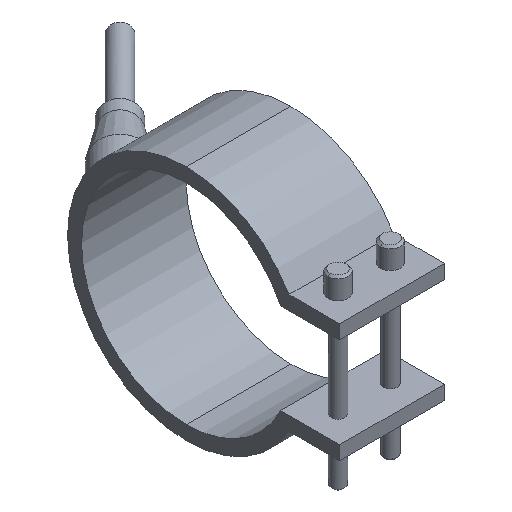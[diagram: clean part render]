
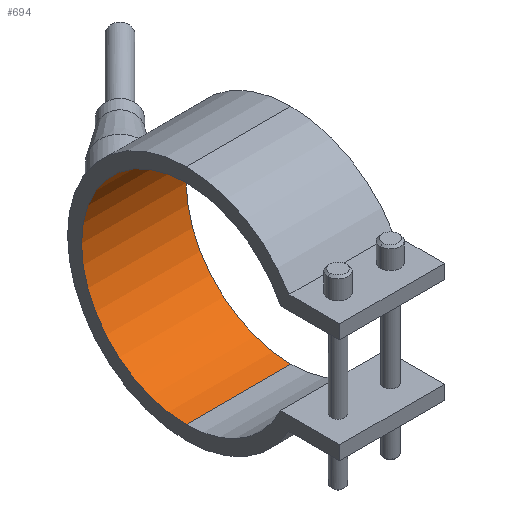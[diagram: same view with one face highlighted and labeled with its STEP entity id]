
A CAD part, isometric view. The second image highlights one B-rep face of the part: STEP entity #694.
In plain terms, the highlighted cylindrical face has radius 30 mm (diameter 60 mm), a partial arc.
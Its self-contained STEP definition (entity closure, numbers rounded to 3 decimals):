
#364=CARTESIAN_POINT('Vertex',(15.,0.,30.)) ;
#369=CARTESIAN_POINT('Axis2P3D Location',(15.,0.,0.)) ;
#373=CARTESIAN_POINT('Vertex',(15.,0.,-30.)) ;
#480=CARTESIAN_POINT('Vertex',(-15.,0.,-30.)) ;
#483=CARTESIAN_POINT('Axis2P3D Location',(-15.,0.,0.)) ;
#487=CARTESIAN_POINT('Vertex',(-15.,0.,30.)) ;
#666=CARTESIAN_POINT('Line Origine',(15.,0.,30.)) ;
#678=CARTESIAN_POINT('Axis2P3D Location',(15.,0.,0.)) ;
#683=CARTESIAN_POINT('Line Origine',(15.,0.,-30.)) ;
#370=DIRECTION('Axis2P3D Direction',(1.,0.,0.)) ;
#484=DIRECTION('Axis2P3D Direction',(1.,0.,0.)) ;
#667=DIRECTION('Vector Direction',(1.,0.,0.)) ;
#679=DIRECTION('Axis2P3D Direction',(1.,0.,-0.)) ;
#680=DIRECTION('Axis2P3D XDirection',(0.,0.,-1.)) ;
#684=DIRECTION('Vector Direction',(1.,0.,0.)) ;
#371=AXIS2_PLACEMENT_3D('Circle Axis2P3D',#369,#370,$) ;
#485=AXIS2_PLACEMENT_3D('Circle Axis2P3D',#483,#484,$) ;
#681=AXIS2_PLACEMENT_3D('Cylinder Axis2P3D',#678,#679,#680) ;
#689=ORIENTED_EDGE('',*,*,#375,.T.) ;
#690=ORIENTED_EDGE('',*,*,#670,.T.) ;
#691=ORIENTED_EDGE('',*,*,#489,.F.) ;
#692=ORIENTED_EDGE('',*,*,#687,.T.) ;
#668=VECTOR('Line Direction',#667,1.) ;
#685=VECTOR('Line Direction',#684,1.) ;
#694=ADVANCED_FACE('29060030',(#693),#682,.F.) ;
#372=CIRCLE('generated circle',#371,30.) ;
#486=CIRCLE('generated circle',#485,30.) ;
#682=CYLINDRICAL_SURFACE('generated cylinder',#681,30.) ;
#375=EDGE_CURVE('',#374,#365,#372,.T.) ;
#489=EDGE_CURVE('',#481,#488,#486,.T.) ;
#670=EDGE_CURVE('',#365,#488,#669,.F.) ;
#687=EDGE_CURVE('',#481,#374,#686,.T.) ;
#688=EDGE_LOOP('',(#689,#690,#691,#692)) ;
#693=FACE_OUTER_BOUND('',#688,.T.) ;
#669=LINE('Line',#666,#668) ;
#686=LINE('Line',#683,#685) ;
#365=VERTEX_POINT('',#364) ;
#374=VERTEX_POINT('',#373) ;
#481=VERTEX_POINT('',#480) ;
#488=VERTEX_POINT('',#487) ;
